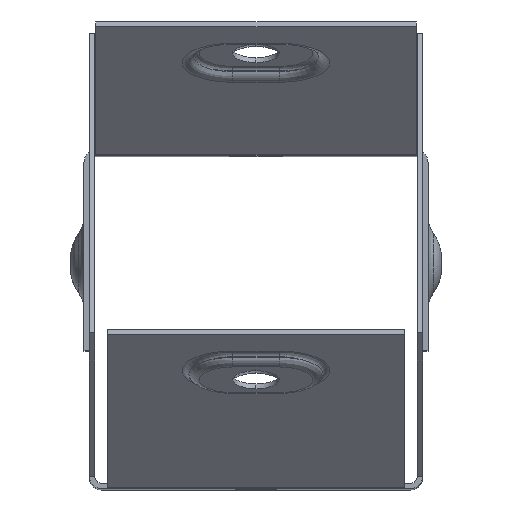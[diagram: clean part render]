
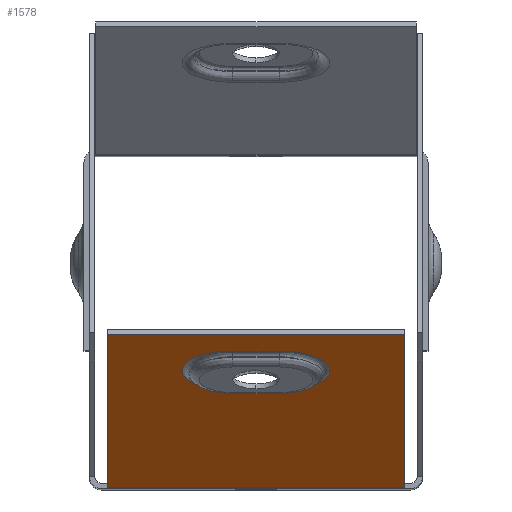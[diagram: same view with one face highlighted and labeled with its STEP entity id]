
A CAD part, top view. The second image highlights one B-rep face of the part: STEP entity #1578.
In plain terms, the highlighted planar face has unit normal (0, -0.924, 0.383).
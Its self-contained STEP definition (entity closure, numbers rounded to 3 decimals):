
#74 = DIRECTION ( 'NONE',  ( -1., 0., 0. ) ) ;
#140 = VECTOR ( 'NONE', #7613, 1000. ) ;
#171 = DIRECTION ( 'NONE',  ( 0., 0.383, 0.924 ) ) ;
#397 = VECTOR ( 'NONE', #7911, 1000. ) ;
#472 = DIRECTION ( 'NONE',  ( 0., -0.383, -0.924 ) ) ;
#645 = ORIENTED_EDGE ( 'NONE', *, *, #4944, .T. ) ;
#707 = CARTESIAN_POINT ( 'NONE',  ( -22.299, -50.663, 58.456 ) ) ;
#787 = VECTOR ( 'NONE', #74, 1000. ) ;
#848 = VERTEX_POINT ( 'NONE', #12579 ) ;
#1148 = DIRECTION ( 'NONE',  ( 0., 0.383, 0.924 ) ) ;
#1313 = ORIENTED_EDGE ( 'NONE', *, *, #10727, .T. ) ;
#1373 = VERTEX_POINT ( 'NONE', #12469 ) ;
#1459 = CARTESIAN_POINT ( 'NONE',  ( -22.299, -50.8, 58.125 ) ) ;
#1562 = EDGE_CURVE ( 'NONE', #11296, #1373, #9426, .T. ) ;
#1578 = ADVANCED_FACE ( 'NONE', ( #2940, #3888 ), #7476, .F. ) ;
#1592 = VECTOR ( 'NONE', #2800, 1000. ) ;
#1991 = CARTESIAN_POINT ( 'NONE',  ( 22.299, -27.805, 113.641 ) ) ;
#2220 = AXIS2_PLACEMENT_3D ( 'NONE', #3353, #8463, #171 ) ;
#2379 = EDGE_CURVE ( 'NONE', #5573, #8436, #8404, .T. ) ;
#2488 = CARTESIAN_POINT ( 'NONE',  ( 22.299, -50.663, 58.456 ) ) ;
#2526 = CIRCLE ( 'NONE', #2874, 7.598 ) ;
#2607 = AXIS2_PLACEMENT_3D ( 'NONE', #8350, #5264, #1148 ) ;
#2800 = DIRECTION ( 'NONE',  ( -1., 0., 0. ) ) ;
#2874 = AXIS2_PLACEMENT_3D ( 'NONE', #12187, #3863, #4983 ) ;
#2940 = FACE_BOUND ( 'NONE', #12020, .T. ) ;
#3353 = CARTESIAN_POINT ( 'NONE',  ( 23.2, -50.8, 58.125 ) ) ;
#3465 = CIRCLE ( 'NONE', #2607, 7.598 ) ;
#3863 = DIRECTION ( 'NONE',  ( 0., 0.924, -0.383 ) ) ;
#3888 = FACE_OUTER_BOUND ( 'NONE', #6996, .T. ) ;
#4177 = CARTESIAN_POINT ( 'NONE',  ( 3.5, -36.07, 93.687 ) ) ;
#4241 = ORIENTED_EDGE ( 'NONE', *, *, #5329, .T. ) ;
#4353 = CARTESIAN_POINT ( 'NONE',  ( 3.5, -30.254, 107.726 ) ) ;
#4363 = LINE ( 'NONE', #9920, #1592 ) ;
#4944 = EDGE_CURVE ( 'NONE', #11601, #8068, #9795, .T. ) ;
#4983 = DIRECTION ( 'NONE',  ( 0., 0.383, 0.924 ) ) ;
#5264 = DIRECTION ( 'NONE',  ( 0., 0.924, -0.383 ) ) ;
#5329 = EDGE_CURVE ( 'NONE', #8436, #11296, #3465, .T. ) ;
#5563 = ORIENTED_EDGE ( 'NONE', *, *, #12019, .T. ) ;
#5573 = VERTEX_POINT ( 'NONE', #5744 ) ;
#5744 = CARTESIAN_POINT ( 'NONE',  ( 3.5, -36.07, 93.687 ) ) ;
#5887 = LINE ( 'NONE', #9098, #397 ) ;
#6710 = CARTESIAN_POINT ( 'NONE',  ( -3.5, -36.07, 93.687 ) ) ;
#6823 = VECTOR ( 'NONE', #472, 1000. ) ;
#6996 = EDGE_LOOP ( 'NONE', ( #7694, #10489, #645, #5563 ) ) ;
#7476 = PLANE ( 'NONE',  #2220 ) ;
#7613 = DIRECTION ( 'NONE',  ( 1., 0., 0. ) ) ;
#7694 = ORIENTED_EDGE ( 'NONE', *, *, #7848, .T. ) ;
#7848 = EDGE_CURVE ( 'NONE', #848, #13318, #11673, .T. ) ;
#7911 = DIRECTION ( 'NONE',  ( -1., 0., 0. ) ) ;
#8068 = VERTEX_POINT ( 'NONE', #1991 ) ;
#8350 = CARTESIAN_POINT ( 'NONE',  ( -3.5, -33.162, 100.707 ) ) ;
#8404 = LINE ( 'NONE', #4177, #787 ) ;
#8436 = VERTEX_POINT ( 'NONE', #6710 ) ;
#8463 = DIRECTION ( 'NONE',  ( 0., 0.924, -0.383 ) ) ;
#8545 = CARTESIAN_POINT ( 'NONE',  ( 22.299, -50.864, 57.971 ) ) ;
#8620 = EDGE_CURVE ( 'NONE', #11601, #13318, #4363, .T. ) ;
#8723 = ORIENTED_EDGE ( 'NONE', *, *, #1562, .T. ) ;
#8814 = VECTOR ( 'NONE', #9821, 1000. ) ;
#9098 = CARTESIAN_POINT ( 'NONE',  ( 23.2, -27.805, 113.641 ) ) ;
#9426 = LINE ( 'NONE', #4353, #140 ) ;
#9748 = ORIENTED_EDGE ( 'NONE', *, *, #2379, .T. ) ;
#9795 = LINE ( 'NONE', #8545, #8814 ) ;
#9821 = DIRECTION ( 'NONE',  ( 0., 0.383, 0.924 ) ) ;
#9920 = CARTESIAN_POINT ( 'NONE',  ( 23.2, -50.663, 58.456 ) ) ;
#10271 = CARTESIAN_POINT ( 'NONE',  ( -3.5, -30.254, 107.726 ) ) ;
#10489 = ORIENTED_EDGE ( 'NONE', *, *, #8620, .F. ) ;
#10727 = EDGE_CURVE ( 'NONE', #1373, #5573, #2526, .T. ) ;
#11296 = VERTEX_POINT ( 'NONE', #10271 ) ;
#11601 = VERTEX_POINT ( 'NONE', #2488 ) ;
#11673 = LINE ( 'NONE', #1459, #6823 ) ;
#12019 = EDGE_CURVE ( 'NONE', #8068, #848, #5887, .T. ) ;
#12020 = EDGE_LOOP ( 'NONE', ( #8723, #1313, #9748, #4241 ) ) ;
#12187 = CARTESIAN_POINT ( 'NONE',  ( 3.5, -33.162, 100.707 ) ) ;
#12469 = CARTESIAN_POINT ( 'NONE',  ( 3.5, -30.254, 107.726 ) ) ;
#12579 = CARTESIAN_POINT ( 'NONE',  ( -22.299, -27.805, 113.641 ) ) ;
#13318 = VERTEX_POINT ( 'NONE', #707 ) ;
